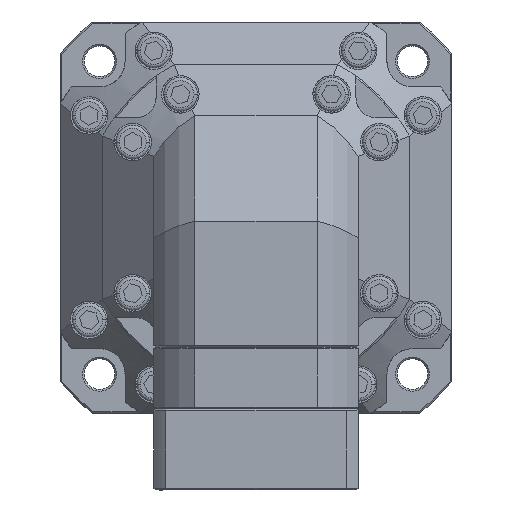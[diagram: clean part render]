
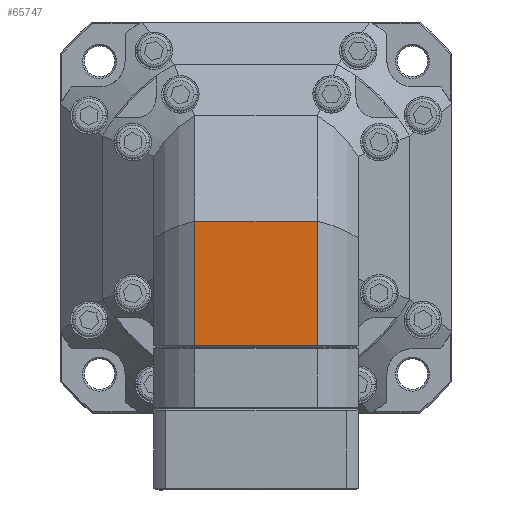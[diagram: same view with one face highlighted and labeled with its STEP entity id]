
A CAD part, front view. The second image highlights one B-rep face of the part: STEP entity #65747.
In plain terms, the highlighted planar face has unit normal (0, 1, 0).
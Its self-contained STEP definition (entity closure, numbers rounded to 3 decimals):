
#785 = EDGE_CURVE ( 'NONE', #47792, #52265, #21215, .T. ) ;
#3800 = EDGE_CURVE ( 'NONE', #36079, #47792, #76693, .T. ) ;
#7469 = CARTESIAN_POINT ( 'NONE',  ( 18.028, -173.611, -1. ) ) ;
#7510 = EDGE_CURVE ( 'NONE', #52265, #95040, #76073, .T. ) ;
#8188 = VECTOR ( 'NONE', #81024, 1000. ) ;
#9320 = CARTESIAN_POINT ( 'NONE',  ( -18.028, -173.611, -1. ) ) ;
#10847 = CARTESIAN_POINT ( 'NONE',  ( -18.028, -173.611, -37.5 ) ) ;
#12217 = ORIENTED_EDGE ( 'NONE', *, *, #12597, .F. ) ;
#12597 = EDGE_CURVE ( 'NONE', #36079, #95040, #49399, .T. ) ;
#16323 = CARTESIAN_POINT ( 'NONE',  ( 0., -173.611, -37.5 ) ) ;
#19328 = DIRECTION ( 'NONE',  ( 1., 0., 0. ) ) ;
#21215 = LINE ( 'NONE', #65654, #63797 ) ;
#23625 = ORIENTED_EDGE ( 'NONE', *, *, #785, .T. ) ;
#31393 = VECTOR ( 'NONE', #66699, 1000. ) ;
#36079 = VERTEX_POINT ( 'NONE', #43154 ) ;
#43154 = CARTESIAN_POINT ( 'NONE',  ( -18.028, -173.611, -37.5 ) ) ;
#47792 = VERTEX_POINT ( 'NONE', #9320 ) ;
#49399 = LINE ( 'NONE', #16323, #72036 ) ;
#52265 = VERTEX_POINT ( 'NONE', #7469 ) ;
#53423 = AXIS2_PLACEMENT_3D ( 'NONE', #10847, #70297, #19328 ) ;
#58161 = CARTESIAN_POINT ( 'NONE',  ( -18.028, -173.611, -19.14 ) ) ;
#58889 = EDGE_LOOP ( 'NONE', ( #61725, #12217, #103149, #23625 ) ) ;
#61725 = ORIENTED_EDGE ( 'NONE', *, *, #7510, .T. ) ;
#63797 = VECTOR ( 'NONE', #74241, 1000. ) ;
#65654 = CARTESIAN_POINT ( 'NONE',  ( 0., -173.611, -1. ) ) ;
#65747 = ADVANCED_FACE ( 'NONE', ( #89456 ), #78548, .F. ) ;
#66699 = DIRECTION ( 'NONE',  ( 0., 0., 1. ) ) ;
#70297 = DIRECTION ( 'NONE',  ( 0., -1., 0. ) ) ;
#72036 = VECTOR ( 'NONE', #84067, 1000. ) ;
#72415 = CARTESIAN_POINT ( 'NONE',  ( 18.028, -173.611, -19.14 ) ) ;
#74241 = DIRECTION ( 'NONE',  ( 1., 0., 0. ) ) ;
#76073 = LINE ( 'NONE', #72415, #8188 ) ;
#76693 = LINE ( 'NONE', #58161, #31393 ) ;
#78548 = PLANE ( 'NONE',  #53423 ) ;
#81024 = DIRECTION ( 'NONE',  ( 0., 0., -1. ) ) ;
#84067 = DIRECTION ( 'NONE',  ( 1., 0., 0. ) ) ;
#89456 = FACE_OUTER_BOUND ( 'NONE', #58889, .T. ) ;
#95040 = VERTEX_POINT ( 'NONE', #96076 ) ;
#96076 = CARTESIAN_POINT ( 'NONE',  ( 18.028, -173.611, -37.5 ) ) ;
#103149 = ORIENTED_EDGE ( 'NONE', *, *, #3800, .T. ) ;
